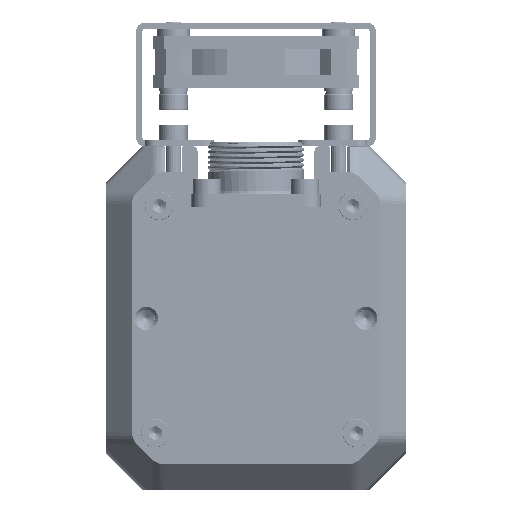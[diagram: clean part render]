
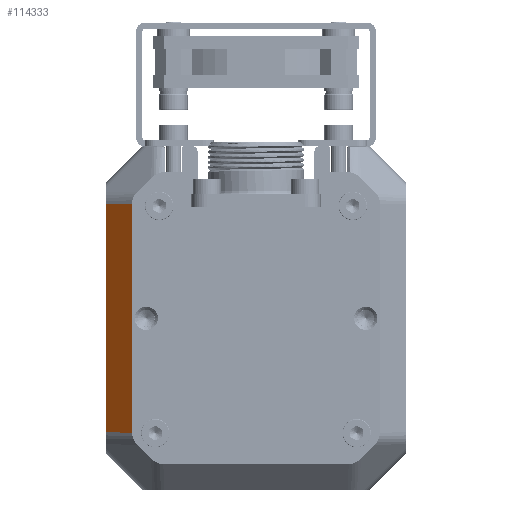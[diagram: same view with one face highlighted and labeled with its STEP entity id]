
A CAD part, front view. The second image highlights one B-rep face of the part: STEP entity #114333.
In plain terms, the highlighted planar face has unit normal (-0.707, -0.707, 0).
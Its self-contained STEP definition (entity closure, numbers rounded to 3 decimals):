
#17359=CARTESIAN_POINT('',(-24.,-635.,-55.435));
#17367=DIRECTION('',(0.707,-0.707,-0.02));
#17368=VECTOR('',#17367,7.072);
#17369=CARTESIAN_POINT('',(-29.,-630.,-55.297));
#17370=LINE('',#17369,#17368);
#17371=DIRECTION('',(0.,0.,-1.));
#17372=VECTOR('',#17371,44.094);
#17373=CARTESIAN_POINT('',(-29.,-630.,-11.203));
#17374=LINE('',#17373,#17372);
#17375=DIRECTION('',(-0.707,0.707,-0.02));
#17376=VECTOR('',#17375,7.072);
#17377=CARTESIAN_POINT('',(-24.,-635.,-11.065));
#17378=LINE('',#17377,#17376);
#17379=DIRECTION('',(0.,0.,1.));
#17380=VECTOR('',#17379,44.371);
#17381=CARTESIAN_POINT('',(-24.,-635.,-55.435));
#17382=LINE('',#17381,#17380);
#17393=CARTESIAN_POINT('',(-29.,-630.,-11.203));
#71187=VERTEX_POINT('',#17359);
#71188=CARTESIAN_POINT('',(-24.,-635.,-11.065));
#71189=VERTEX_POINT('',#71188);
#71399=VERTEX_POINT('',#17393);
#71400=CARTESIAN_POINT('',(-29.,-630.,-55.297));
#71401=VERTEX_POINT('',#71400);
#114320=CARTESIAN_POINT('',(-26.5,-632.5,-33.25));
#114321=DIRECTION('',(-0.707,-0.707,0.));
#114322=DIRECTION('',(-0.707,0.707,0.));
#114323=AXIS2_PLACEMENT_3D('',#114320,#114321,#114322);
#114324=PLANE('',#114323);
#114325=ORIENTED_EDGE('',*,*,#114304,.F.);
#114326=ORIENTED_EDGE('',*,*,#93850,.F.);
#114328=ORIENTED_EDGE('',*,*,#114327,.F.);
#114330=ORIENTED_EDGE('',*,*,#114329,.F.);
#114331=EDGE_LOOP('',(#114325,#114326,#114328,#114330));
#114332=FACE_OUTER_BOUND('',#114331,.F.);
#93850=EDGE_CURVE('',#71399,#71401,#17374,.T.);
#114304=EDGE_CURVE('',#71401,#71187,#17370,.T.);
#114327=EDGE_CURVE('',#71189,#71399,#17378,.T.);
#114329=EDGE_CURVE('',#71187,#71189,#17382,.T.);
#114333=ADVANCED_FACE('',(#114332),#114324,.T.);
